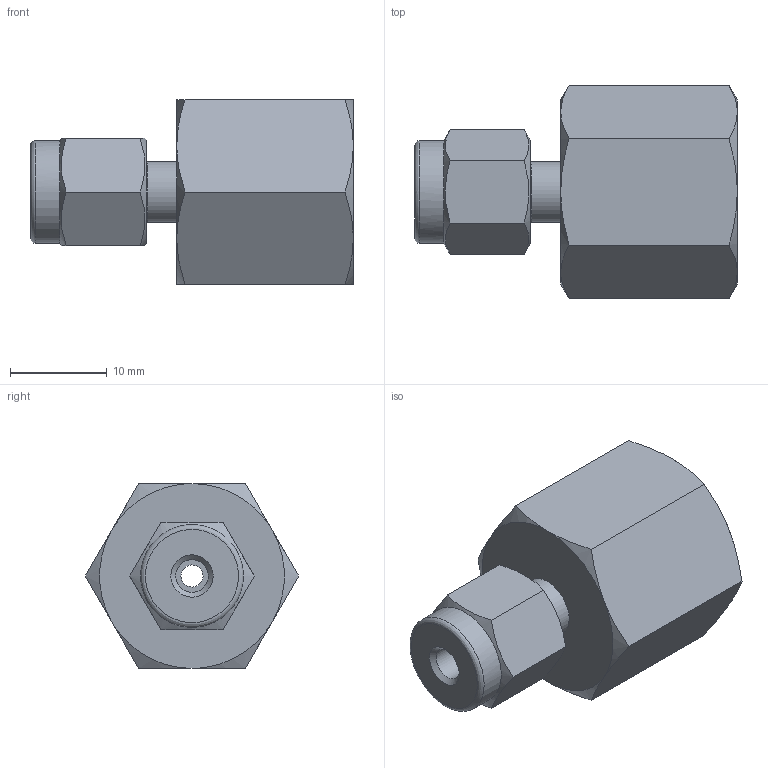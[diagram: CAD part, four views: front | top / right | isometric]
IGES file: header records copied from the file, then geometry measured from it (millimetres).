
Global section: file name: SFC-2-4N; native system: Autodesk Inventor 2016; preprocessor: unknown; author: 배성훈,,11,0; organization: 20150901.004926; date: 20151019.101841; units: millimetre
Bounding box: 33.26 x 22 x 19.05 mm (x, y, z)
Volume: 4895.1 mm3; surface area: 3121.2 mm2
Topology: 1 solids, 1 shells, 42 faces, 106 edges, 69 vertices
Faces by surface type: bspline 42
